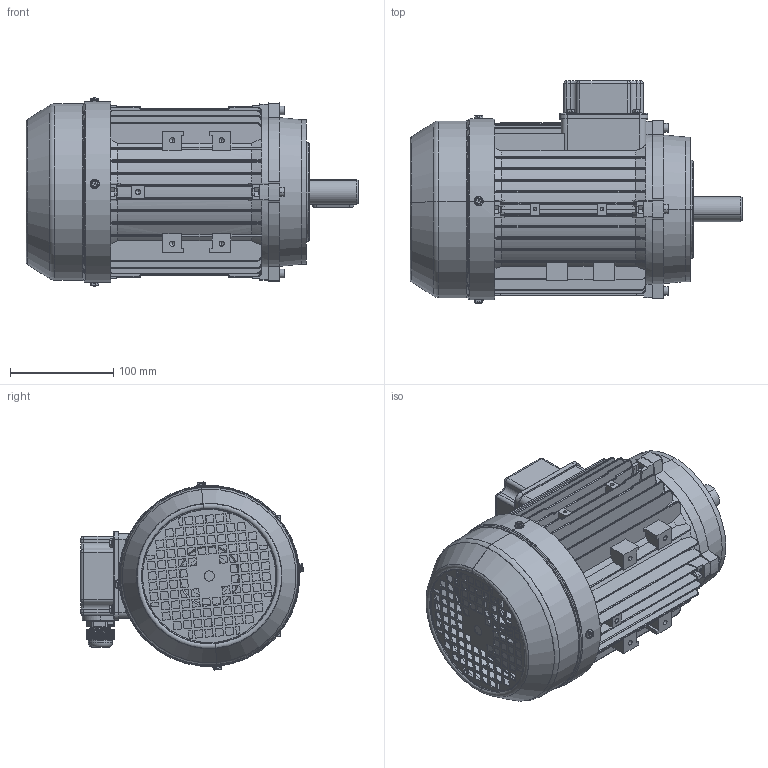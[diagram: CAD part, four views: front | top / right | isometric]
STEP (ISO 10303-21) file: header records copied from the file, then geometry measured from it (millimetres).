
FILE_DESCRIPTION (( 'STEP AP203' ), '1' );
FILE_NAME ('MSL90SL assembly B14.STEP', '2017-11-26T09:45:52', ( 'user' ), ( 'china' ), 'SwSTEP 2.0', 'SolidWorks 2016', '' );
FILE_SCHEMA (( 'CONFIG_CONTROL_DESIGN' ));
Length unit declared in the file: millimetre
Products named in the file (14): M90傷裔B14; GB-T 29.2-1988 M4鞠褒坋趼湍菜_08; MS90 綴裔瑞欶郪磁; GB-T 5780-2000 M5_020; GB-T 29.2-1988 M4鞠褒坋趼湍菜_05; MSL80-90堤盄碟蚾饜; GB-T 70.1-2000 M5_20; MSL90-儂褲; M90-Shaft drive end; M20 cable gland; MSL90SL assembly B14; M90傷裔B3_Post; MSL80-90堤盄碟_MSL80-90; M90瑞欶_082
Assembly tree (25 placements, depth 3):
  MSL90SL assembly B14
    MSL90-儂褲
    MS90 綴裔瑞欶郪磁
      M90傷裔B3_Post
      M90瑞欶_082
      GB-T 29.2-1988 M4鞠褒坋趼湍菜_08  x4
    MSL80-90堤盄碟蚾饜
      MSL80-90堤盄碟_MSL80-90
      GB-T 29.2-1988 M4鞠褒坋趼湍菜_05  x4
      M20 cable gland
    M90-Shaft drive end
    GB-T 70.1-2000 M5_20  x4
    GB-T 5780-2000 M5_020  x4
    M90傷裔B14
Bounding box: 321.5 x 215.55 x 182.1 mm (x, y, z)
Volume: 852653.2 mm3; surface area: 626772.4 mm2
Topology: 23 solids, 23 shells, 3211 faces, 8281 edges, 5154 vertices
Faces by surface type: plane 1590, cylinder 969, cone 245, bspline 228, torus 171, sphere 8
Entity records: 110426 total; most frequent: CARTESIAN_POINT 41158, ORIENTED_EDGE 14726, DIRECTION 13180, EDGE_CURVE 7363, VERTEX_POINT 4677, AXIS2_PLACEMENT_3D 4509, VECTOR 4162, LINE 4162
